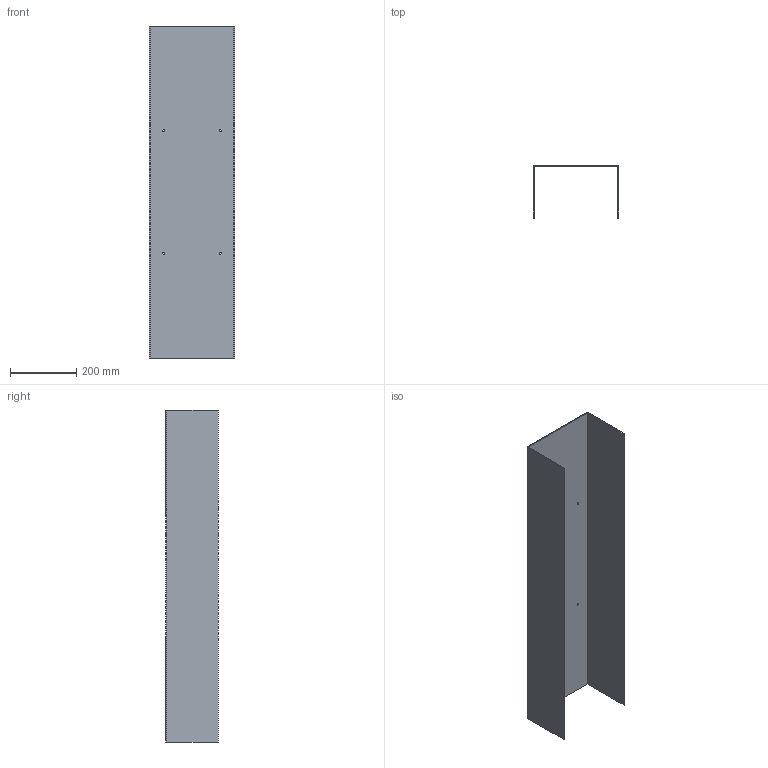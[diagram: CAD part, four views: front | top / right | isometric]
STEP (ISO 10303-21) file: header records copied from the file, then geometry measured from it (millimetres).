
FILE_DESCRIPTION (( 'STEP AP203' ), '1' );
FILE_NAME ('High current protection cover 1600.STEP', '2020-10-27T12:59:54', ( '' ), ( '' ), 'SwSTEP 2.0', 'SolidWorks 2017', '' );
FILE_SCHEMA (( 'CONFIG_CONTROL_DESIGN' ));
Length unit declared in the file: millimetre
Products named in the file (1): High current protection cover 1600
Bounding box: 258 x 159 x 1000 mm (x, y, z)
Volume: 1705797.9 mm3; surface area: 1146837.1 mm2
Topology: 1 solids, 1 shells, 20 faces, 54 edges, 36 vertices
Faces by surface type: cylinder 10, plane 10
Entity records: 731 total; most frequent: DIRECTION 116, CARTESIAN_POINT 111, ORIENTED_EDGE 108, EDGE_CURVE 54, AXIS2_PLACEMENT_3D 41, VERTEX_POINT 36, VECTOR 34, LINE 34
